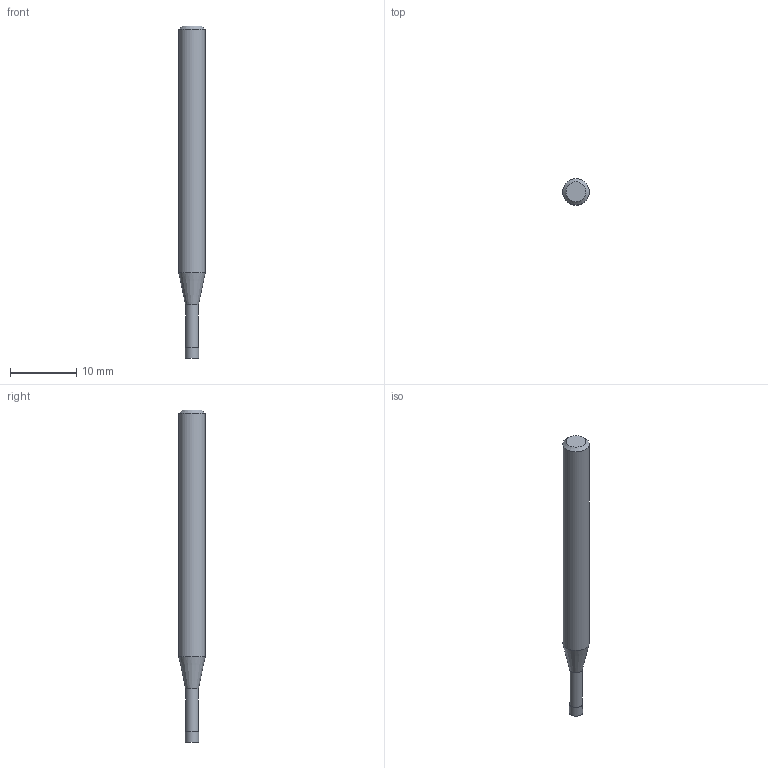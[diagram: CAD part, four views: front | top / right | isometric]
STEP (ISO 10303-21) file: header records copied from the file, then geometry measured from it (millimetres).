
FILE_DESCRIPTION((''),'2;1');
FILE_NAME('C:\Users\nsx150\AppData\Local\Temp\Mastercam 2021\3SYKECWX22\TEMP.step','2021-04-22T09:39:17',(''),(''),'STEP Write','Mastercam 2021 ... CNC Software, Inc.','');
FILE_SCHEMA(('AUTOMOTIVE_DESIGN'));
Length unit declared in the file: millimetre
Products named in the file (1): None
Bounding box: 4 x 4 x 50 mm (x, y, z)
Volume: 524.3 mm3; surface area: 580 mm2
Topology: 2 solids, 2 shells, 9 faces, 12 edges, 7 vertices
Faces by surface type: plane 4, cylinder 3, cone 2
Full cylindrical faces by diameter (mm): 1.94 x1, 2 x1, 4 x1
Entity records: 211 total; most frequent: DIRECTION 36, CARTESIAN_POINT 25, AXIS2_PLACEMENT_3D 18, ORIENTED_EDGE 14, EDGE_LOOP 14, STYLED_ITEM 12, ADVANCED_FACE 9, FACE_BOUND 8
